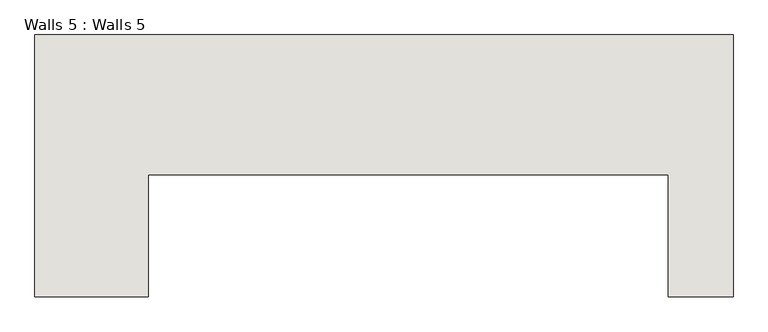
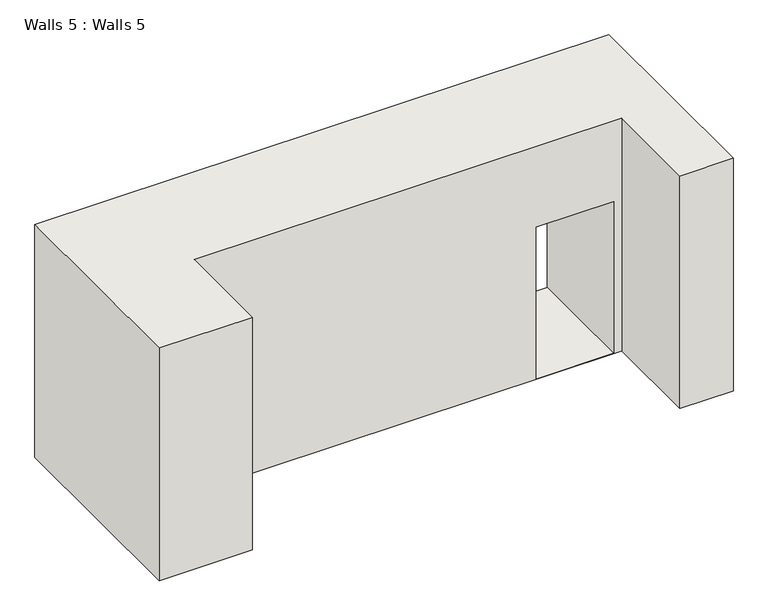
"""IFC4 building model written with IfcOpenShell, lengths in millimetres: wall geometry, Walls 5 : Walls 5."""

from ifc_helpers import new_model, si_unit, origin, place, context, project, spatial, faceted_brep, source, transform, mapped, element, save


def walls_5_walls_5_82c941d5(model_context):
    return source(origin(), model_context, "Body", "Brep", [
        faceted_brep([(-3518.5171482, -849.4449025, 15386.4), (-11418.5171482, -849.4449025, 15386.4), (-11418.5171482, -3813.5680576, 15386.4), (-10135.4354417, -3813.5680576, 15386.4), (-10135.4354417, -2431.3848439, 15386.4), (-4250.0, -2431.3848439, 15386.4), (-4250.0, -3813.5680576, 15386.4), (-3518.5171482, -3813.5680576, 15386.4), (-3518.5171482, -849.4449025, 12000.0), (-3518.5171482, -3813.5680576, 12000.0), (-4250.0, -3813.5680576, 12000.0), (-4250.0, -2431.3848439, 12000.0), (-10135.4354417, -2431.3848439, 12000.0), (-10135.4354417, -3813.5680576, 12000.0), (-11418.5171482, -3813.5680576, 12000.0), (-11418.5171482, -849.4449025, 12000.0), (-4365.7566727, -849.4449025, 12006.4), (-4365.7566727, -849.4449025, 14216.2), (-5432.5566727, -849.4449025, 14216.2), (-5432.5566727, -849.4449025, 12006.4), (-4365.7566727, -2431.3848439, 14216.2), (-4365.7566727, -2431.3848439, 12006.4), (-5432.5566727, -2431.3848439, 12006.4), (-5432.5566727, -2431.3848439, 14216.2)], [[[0, 1, 2, 3, 4, 5, 6, 7]], [[8, 9, 10, 11, 12, 13, 14, 15]], [[1, 0, 8, 15], [16, 17, 18, 19]], [[2, 1, 15, 14]], [[3, 2, 14, 13]], [[4, 3, 13, 12]], [[5, 4, 12, 11], [20, 21, 22, 23]], [[6, 5, 11, 10]], [[7, 6, 10, 9]], [[0, 7, 9, 8]], [[16, 21, 20, 17]], [[17, 20, 23, 18]], [[18, 23, 22, 19]], [[21, 16, 19, 22]]]),
    ])


if __name__ == "__main__":
    model = new_model("IFC4")
    model_context = context("Model", 3, world=origin())
    ifc_project = project(units=[si_unit("LENGTHUNIT", "METRE", prefix="MILLI")], contexts=[model_context])
    site = spatial("IfcSite", under=ifc_project)
    building = spatial("IfcBuilding", under=site)
    placement = place(None, origin())
    walls_5_walls_5_shape = walls_5_walls_5_82c941d5(model_context)
    element("IfcWall", 1, ObjectType="Walls 5 : Walls 5", at=placement, inside=building, context=model_context, shape_type="MappedRepresentation", body=[
        mapped(walls_5_walls_5_shape, transform((0.0, 0.0, 0.0), x_axis=(1.0, 0.0, 0.0), y_axis=(0.0, 1.0, 0.0), z_axis=(0.0, 0.0, 1.0))),
    ])
    save(model, "model.ifc")
